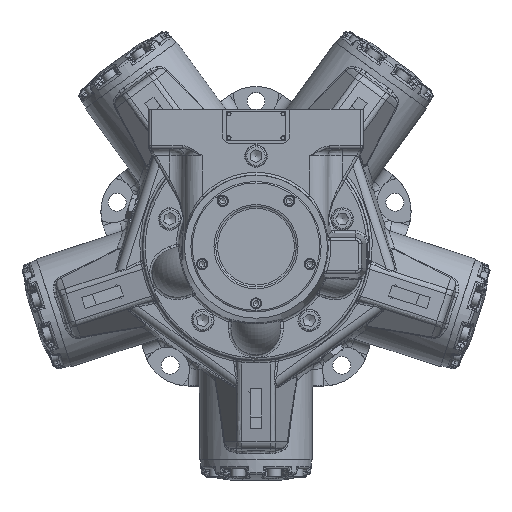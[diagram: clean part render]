
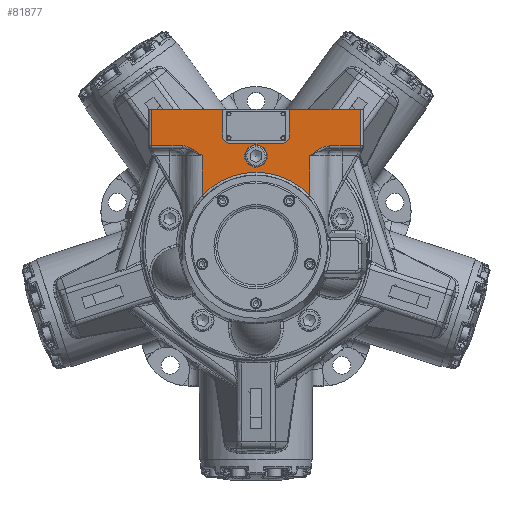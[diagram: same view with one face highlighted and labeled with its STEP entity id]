
A CAD part, top view. The second image highlights one B-rep face of the part: STEP entity #81877.
In plain terms, the highlighted planar face has unit normal (0, 0, 1).
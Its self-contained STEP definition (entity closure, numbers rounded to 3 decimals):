
#1806=FACE_BOUND('',#18393,.T.);
#2146=PLANE('',#87315);
#4706=LINE('',#120330,#8758);
#4725=LINE('',#121272,#8777);
#4759=LINE('',#121862,#8811);
#4764=LINE('',#122141,#8816);
#4766=LINE('',#122223,#8818);
#4786=LINE('',#136423,#8838);
#4793=LINE('',#136438,#8845);
#4794=LINE('',#136440,#8846);
#4817=LINE('',#136598,#8869);
#4818=LINE('',#136602,#8870);
#4819=LINE('',#136605,#8871);
#8758=VECTOR('',#94924,10.);
#8777=VECTOR('',#94991,10.);
#8811=VECTOR('',#95177,10.);
#8816=VECTOR('',#95222,10.);
#8818=VECTOR('',#95234,10.);
#8838=VECTOR('',#95478,10.);
#8845=VECTOR('',#95495,10.);
#8846=VECTOR('',#95496,10.);
#8869=VECTOR('',#95623,10.);
#8870=VECTOR('',#95626,10.);
#8871=VECTOR('',#95629,10.);
#13170=FACE_OUTER_BOUND('',#18392,.T.);
#18392=EDGE_LOOP('',(#52001,#52002,#52003,#52004,#52005,#52006,#52007,#52008,
#52009,#52010,#52011,#52012,#52013,#52014,#52015,#52016));
#18393=EDGE_LOOP('',(#52017));
#23656=CIRCLE('',#87205,83.375);
#23710=CIRCLE('',#87276,12.7);
#23725=CIRCLE('',#87316,8.);
#23726=CIRCLE('',#87317,8.);
#27067=B_SPLINE_CURVE_WITH_KNOTS('',3,(#121923,#121924,#121925,#121926,
#121927,#121928,#121929,#121930,#121931,#121932,#121933,#121934),
 .UNSPECIFIED.,.F.,.F.,(4,2,1,1,1,1,1,1,4),(-0.002,0.,0.504,
1.007,1.511,1.762,2.014,2.266,
2.518),.UNSPECIFIED.);
#27069=B_SPLINE_CURVE_WITH_KNOTS('',3,(#122207,#122208,#122209,#122210,
#122211,#122212,#122213,#122214,#122215,#122216,#122217,#122218),
 .UNSPECIFIED.,.F.,.F.,(4,1,1,1,1,1,1,2,4),(0.,0.504,0.755,
1.007,1.259,1.511,2.014,2.518,
2.519),.UNSPECIFIED.);
#30985=VERTEX_POINT('',#120327);
#30986=VERTEX_POINT('',#120329);
#31038=VERTEX_POINT('',#121258);
#31039=VERTEX_POINT('',#121271);
#31087=VERTEX_POINT('',#121858);
#31088=VERTEX_POINT('',#121860);
#31093=VERTEX_POINT('',#122138);
#31095=VERTEX_POINT('',#122206);
#31096=VERTEX_POINT('',#122221);
#31189=VERTEX_POINT('',#136421);
#31192=VERTEX_POINT('',#136436);
#31193=VERTEX_POINT('',#136439);
#31206=VERTEX_POINT('',#136466);
#31228=VERTEX_POINT('',#136597);
#31229=VERTEX_POINT('',#136599);
#31230=VERTEX_POINT('',#136601);
#31231=VERTEX_POINT('',#136603);
#38414=EDGE_CURVE('',#30985,#30986,#4706,.T.);
#38491=EDGE_CURVE('',#31038,#31039,#4725,.T.);
#38588=EDGE_CURVE('',#31088,#31087,#4759,.T.);
#38589=EDGE_CURVE('',#31039,#31088,#27067,.T.);
#38608=EDGE_CURVE('',#31087,#31093,#4764,.T.);
#38611=EDGE_CURVE('',#31095,#30985,#27069,.T.);
#38614=EDGE_CURVE('',#31096,#31095,#4766,.T.);
#38700=EDGE_CURVE('',#30986,#31038,#23656,.T.);
#38798=EDGE_CURVE('',#31189,#31096,#4786,.T.);
#38806=EDGE_CURVE('',#31189,#31192,#4793,.T.);
#38807=EDGE_CURVE('',#31193,#31093,#4794,.T.);
#38821=EDGE_CURVE('',#31206,#31206,#23710,.T.);
#38860=EDGE_CURVE('',#31192,#31228,#4817,.T.);
#38861=EDGE_CURVE('',#31228,#31229,#23725,.T.);
#38862=EDGE_CURVE('',#31229,#31230,#4818,.T.);
#38863=EDGE_CURVE('',#31230,#31231,#23726,.T.);
#38864=EDGE_CURVE('',#31231,#31193,#4819,.T.);
#52001=ORIENTED_EDGE('',*,*,#38860,.T.);
#52002=ORIENTED_EDGE('',*,*,#38861,.T.);
#52003=ORIENTED_EDGE('',*,*,#38862,.T.);
#52004=ORIENTED_EDGE('',*,*,#38863,.T.);
#52005=ORIENTED_EDGE('',*,*,#38864,.T.);
#52006=ORIENTED_EDGE('',*,*,#38807,.T.);
#52007=ORIENTED_EDGE('',*,*,#38608,.F.);
#52008=ORIENTED_EDGE('',*,*,#38588,.F.);
#52009=ORIENTED_EDGE('',*,*,#38589,.F.);
#52010=ORIENTED_EDGE('',*,*,#38491,.F.);
#52011=ORIENTED_EDGE('',*,*,#38700,.F.);
#52012=ORIENTED_EDGE('',*,*,#38414,.F.);
#52013=ORIENTED_EDGE('',*,*,#38611,.F.);
#52014=ORIENTED_EDGE('',*,*,#38614,.F.);
#52015=ORIENTED_EDGE('',*,*,#38798,.F.);
#52016=ORIENTED_EDGE('',*,*,#38806,.T.);
#52017=ORIENTED_EDGE('',*,*,#38821,.T.);
#81877=ADVANCED_FACE('',(#13170,#1806),#2146,.T.);
#87205=AXIS2_PLACEMENT_3D('',#123971,#95365,#95366);
#87276=AXIS2_PLACEMENT_3D('',#136468,#95523,#95524);
#87315=AXIS2_PLACEMENT_3D('',#136596,#95621,#95622);
#87316=AXIS2_PLACEMENT_3D('',#136600,#95624,#95625);
#87317=AXIS2_PLACEMENT_3D('',#136604,#95627,#95628);
#94924=DIRECTION('',(0.,-1.,0.));
#94991=DIRECTION('',(0.,1.,0.));
#95177=DIRECTION('',(-1.,0.,0.));
#95222=DIRECTION('',(0.,1.,0.));
#95234=DIRECTION('',(-1.,0.,0.));
#95365=DIRECTION('center_axis',(0.,0.,
1.));
#95366=DIRECTION('ref_axis',(0.,1.,0.));
#95478=DIRECTION('',(0.,-1.,0.));
#95495=DIRECTION('',(-1.,0.,0.));
#95496=DIRECTION('',(-1.,0.,0.));
#95523=DIRECTION('center_axis',(0.,0.,
-1.));
#95524=DIRECTION('ref_axis',(-1.,0.,0.));
#95621=DIRECTION('center_axis',(0.,0.,
1.));
#95622=DIRECTION('ref_axis',(-1.,0.,0.));
#95623=DIRECTION('',(0.,-1.,0.));
#95624=DIRECTION('center_axis',(0.,0.,
-1.));
#95625=DIRECTION('ref_axis',(0.,-1.,0.));
#95626=DIRECTION('',(-1.,0.,0.));
#95627=DIRECTION('center_axis',(0.,0.,
-1.));
#95628=DIRECTION('ref_axis',(-1.,0.,0.));
#95629=DIRECTION('',(0.,1.,0.));
#120327=CARTESIAN_POINT('',(60.478,102.,307.87));
#120329=CARTESIAN_POINT('',(60.478,57.392,307.87));
#120330=CARTESIAN_POINT('',(60.478,134.5,307.87));
#121258=CARTESIAN_POINT('',(-60.478,57.392,307.87));
#121271=CARTESIAN_POINT('',(-60.478,102.,307.87));
#121272=CARTESIAN_POINT('',(-60.478,79.5,307.87));
#121858=CARTESIAN_POINT('',(-117.,113.,307.87));
#121860=CARTESIAN_POINT('',(-82.727,113.,307.87));
#121862=CARTESIAN_POINT('',(60.,113.,307.87));
#121923=CARTESIAN_POINT('Ctrl Pts',(-60.478,102.,307.87));
#121924=CARTESIAN_POINT('Ctrl Pts',(-60.483,102.004,
307.87));
#121925=CARTESIAN_POINT('Ctrl Pts',(-60.488,102.008,
307.87));
#121926=CARTESIAN_POINT('Ctrl Pts',(-61.801,103.064,
307.87));
#121927=CARTESIAN_POINT('Ctrl Pts',(-64.445,105.191,
307.87));
#121928=CARTESIAN_POINT('Ctrl Pts',(-68.576,108.18,
307.87));
#121929=CARTESIAN_POINT('Ctrl Pts',(-72.226,110.283,
307.87));
#121930=CARTESIAN_POINT('Ctrl Pts',(-75.303,111.601,
307.87));
#121931=CARTESIAN_POINT('Ctrl Pts',(-77.711,112.374,
307.87));
#121932=CARTESIAN_POINT('Ctrl Pts',(-80.205,112.879,
307.87));
#121933=CARTESIAN_POINT('Ctrl Pts',(-81.888,113.,
307.87));
#121934=CARTESIAN_POINT('Ctrl Pts',(-82.727,113.,
307.87));
#122138=CARTESIAN_POINT('',(-117.,154.,307.87));
#122141=CARTESIAN_POINT('',(-117.,159.,307.87));
#122206=CARTESIAN_POINT('',(82.727,113.,307.87));
#122207=CARTESIAN_POINT('Ctrl Pts',(82.727,113.,307.87));
#122208=CARTESIAN_POINT('Ctrl Pts',(81.049,113.,307.87));
#122209=CARTESIAN_POINT('Ctrl Pts',(78.513,112.632,307.87));
#122210=CARTESIAN_POINT('Ctrl Pts',(75.303,111.6,307.87));
#122211=CARTESIAN_POINT('Ctrl Pts',(72.995,110.612,307.87));
#122212=CARTESIAN_POINT('Ctrl Pts',(70.765,109.441,307.87));
#122213=CARTESIAN_POINT('Ctrl Pts',(67.888,107.682,307.87));
#122214=CARTESIAN_POINT('Ctrl Pts',(64.444,105.19,307.87));
#122215=CARTESIAN_POINT('Ctrl Pts',(61.801,103.064,307.87));
#122216=CARTESIAN_POINT('Ctrl Pts',(60.488,102.008,307.87));
#122217=CARTESIAN_POINT('Ctrl Pts',(60.483,102.004,307.87));
#122218=CARTESIAN_POINT('Ctrl Pts',(60.478,102.,307.87));
#122221=CARTESIAN_POINT('',(117.,113.,307.87));
#122223=CARTESIAN_POINT('',(60.,113.,307.87));
#123971=CARTESIAN_POINT('Origin',(0.,0.,
307.87));
#136421=CARTESIAN_POINT('',(117.,154.,307.87));
#136423=CARTESIAN_POINT('',(117.,159.,307.87));
#136436=CARTESIAN_POINT('',(37.5,154.,307.87));
#136438=CARTESIAN_POINT('',(149.802,154.,307.87));
#136439=CARTESIAN_POINT('',(-37.5,154.,307.87));
#136440=CARTESIAN_POINT('',(149.802,154.,307.87));
#136466=CARTESIAN_POINT('',(12.7,101.6,307.87));
#136468=CARTESIAN_POINT('Origin',(0.,101.6,307.87));
#136596=CARTESIAN_POINT('Origin',(120.,159.,307.87));
#136597=CARTESIAN_POINT('',(37.5,124.,307.87));
#136598=CARTESIAN_POINT('',(37.5,156.5,307.87));
#136599=CARTESIAN_POINT('',(29.5,116.,307.87));
#136600=CARTESIAN_POINT('Origin',(29.5,124.,307.87));
#136601=CARTESIAN_POINT('',(-29.5,116.,307.87));
#136602=CARTESIAN_POINT('',(74.75,116.,307.87));
#136603=CARTESIAN_POINT('',(-37.5,124.,307.87));
#136604=CARTESIAN_POINT('Origin',(-29.5,124.,307.87));
#136605=CARTESIAN_POINT('',(-37.5,141.5,307.87));
